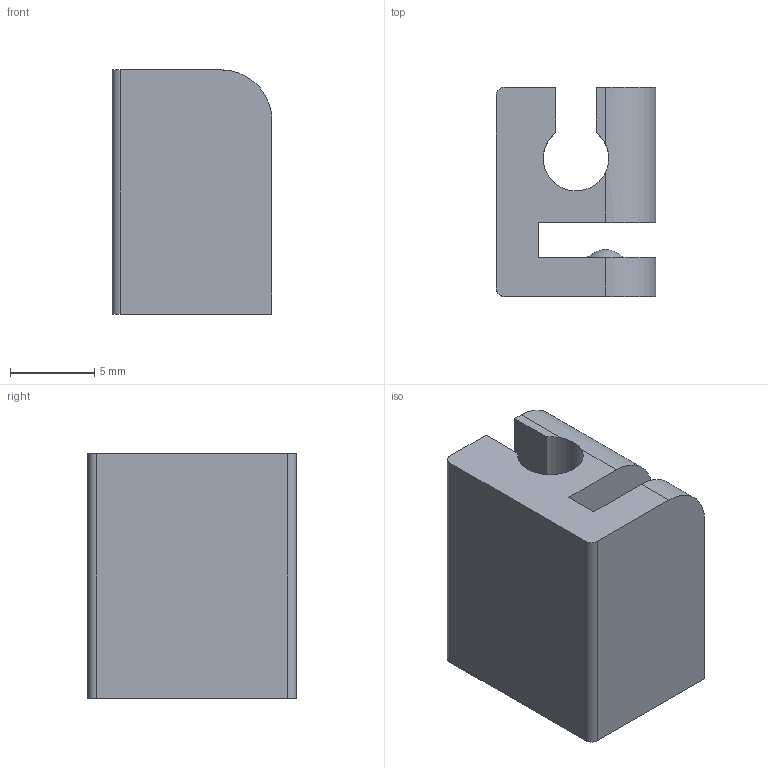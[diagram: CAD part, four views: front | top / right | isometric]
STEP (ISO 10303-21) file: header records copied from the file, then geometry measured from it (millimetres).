
FILE_DESCRIPTION (( 'STEP AP214' ), '1' );
FILE_NAME ('Traegerteil_low.STEP', '2024-02-03T08:19:11', ( 'Lenovo' ), ( '' ), 'SwSTEP 2.0', 'SolidWorks 2019', '' );
FILE_SCHEMA (( 'AUTOMOTIVE_DESIGN' ));
Length unit declared in the file: millimetre
Products named in the file (1): Traegerteil_low
Bounding box: 9.5 x 12.4 x 14.5 mm (x, y, z)
Volume: 1218.3 mm3; surface area: 1164.8 mm2
Topology: 1 solids, 1 shells, 23 faces, 63 edges, 41 vertices
Faces by surface type: plane 14, cylinder 7, torus 2
Entity records: 759 total; most frequent: CARTESIAN_POINT 134, DIRECTION 125, ORIENTED_EDGE 122, EDGE_CURVE 61, AXIS2_PLACEMENT_3D 42, VECTOR 41, VERTEX_POINT 41, LINE 41
